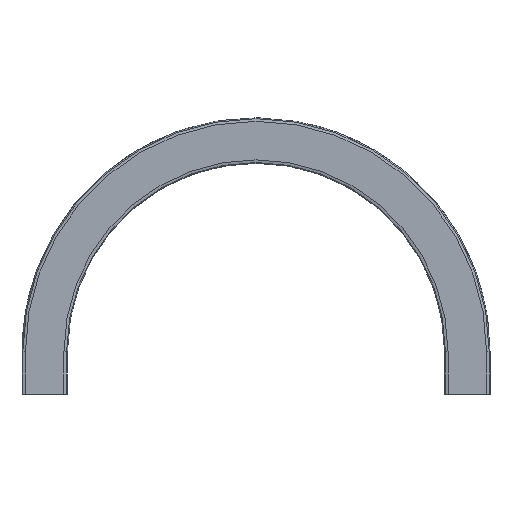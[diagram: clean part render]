
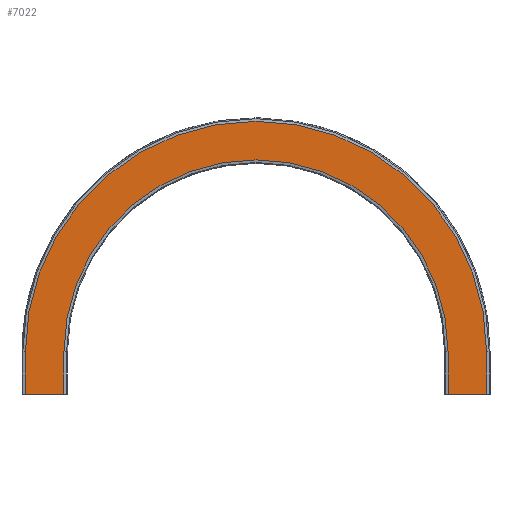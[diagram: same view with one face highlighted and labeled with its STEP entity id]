
A CAD part, front view. The second image highlights one B-rep face of the part: STEP entity #7022.
In plain terms, the highlighted planar face has unit normal (0, -1, 0).
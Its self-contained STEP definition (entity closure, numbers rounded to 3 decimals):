
#6653=CARTESIAN_POINT('',(36.5,-11.,0.0));
#6654=VERTEX_POINT('',#6653);
#6661=CARTESIAN_POINT('',(-36.5,-11.,0.0));
#6662=VERTEX_POINT('',#6661);
#6663=CARTESIAN_POINT('',(-36.5,-11.,0.0));
#6664=DIRECTION('',(1.0,0.0,0.0));
#6665=VECTOR('',#6664,73.);
#6666=LINE('',#6663,#6665);
#6667=EDGE_CURVE('',#6662,#6654,#6666,.T.);
#6733=CARTESIAN_POINT('',(-36.5,-11.,80.0));
#6734=VERTEX_POINT('',#6733);
#6748=CARTESIAN_POINT('',(-36.5,-11.,0.0));
#6749=DIRECTION('',(0.0,0.0,1.0));
#6750=VECTOR('',#6749,80.0);
#6751=LINE('',#6748,#6750);
#6752=EDGE_CURVE('',#6662,#6734,#6751,.T.);
#6762=CARTESIAN_POINT('',(36.5,-11.,80.0));
#6763=VERTEX_POINT('',#6762);
#6772=CARTESIAN_POINT('',(36.5,-11.,0.0));
#6773=DIRECTION('',(0.0,0.0,1.0));
#6774=VECTOR('',#6773,80.0);
#6775=LINE('',#6772,#6774);
#6776=EDGE_CURVE('',#6654,#6763,#6775,.T.);
#6849=CARTESIAN_POINT('',(-836.5,-11.,80.0));
#6850=VERTEX_POINT('',#6849);
#6859=CARTESIAN_POINT('',(-400.0,-11.,80.0));
#6860=DIRECTION('',(0.0,-1.0,0.0));
#6861=DIRECTION('',(1.0,0.0,0.0));
#6862=AXIS2_PLACEMENT_3D('',#6859,#6860,#6861);
#6863=CIRCLE('',#6862,436.5);
#6864=EDGE_CURVE('',#6763,#6850,#6863,.T.);
#6916=CARTESIAN_POINT('',(-763.5,-11.,80.0));
#6917=VERTEX_POINT('',#6916);
#6932=CARTESIAN_POINT('',(-400.0,-11.,80.0));
#6933=DIRECTION('',(0.0,-1.0,0.0));
#6934=DIRECTION('',(1.0,0.0,0.0));
#6935=AXIS2_PLACEMENT_3D('',#6932,#6933,#6934);
#6936=CIRCLE('',#6935,363.5);
#6937=EDGE_CURVE('',#6734,#6917,#6936,.T.);
#6976=CARTESIAN_POINT('',(-763.5,-11.,0.));
#6977=VERTEX_POINT('',#6976);
#6986=CARTESIAN_POINT('',(-763.5,-11.,80.0));
#6987=DIRECTION('',(0.0,0.0,-1.0));
#6988=VECTOR('',#6987,80.0);
#6989=LINE('',#6986,#6988);
#6990=EDGE_CURVE('',#6917,#6977,#6989,.T.);
#6995=CARTESIAN_POINT('',(-836.5,-11.,1416.637));
#6996=DIRECTION('',(0.0,-1.0,0.0));
#6997=DIRECTION('',(0.0,0.0,1.0));
#6998=AXIS2_PLACEMENT_3D('',#6995,#6996,#6997);
#6999=PLANE('',#6998);
#7000=CARTESIAN_POINT('',(-836.5,-11.,0.0));
#7001=VERTEX_POINT('',#7000);
#7002=CARTESIAN_POINT('',(-836.5,-11.,0.));
#7003=DIRECTION('',(1.0,0.0,0.0));
#7004=VECTOR('',#7003,73.);
#7005=LINE('',#7002,#7004);
#7006=EDGE_CURVE('',#7001,#6977,#7005,.T.);
#7007=ORIENTED_EDGE('',*,*,#7006,.T.);
#7008=ORIENTED_EDGE('',*,*,#6990,.F.);
#7009=ORIENTED_EDGE('',*,*,#6937,.F.);
#7010=ORIENTED_EDGE('',*,*,#6752,.F.);
#7011=ORIENTED_EDGE('',*,*,#6667,.T.);
#7012=ORIENTED_EDGE('',*,*,#6776,.T.);
#7013=ORIENTED_EDGE('',*,*,#6864,.T.);
#7014=CARTESIAN_POINT('',(-836.5,-11.,80.0));
#7015=DIRECTION('',(0.0,0.0,-1.0));
#7016=VECTOR('',#7015,80.0);
#7017=LINE('',#7014,#7016);
#7018=EDGE_CURVE('',#6850,#7001,#7017,.T.);
#7019=ORIENTED_EDGE('',*,*,#7018,.T.);
#7020=EDGE_LOOP('',(#7007,#7008,#7009,#7010,#7011,#7012,#7013,#7019));
#7021=FACE_OUTER_BOUND('',#7020,.T.);
#7022=ADVANCED_FACE('',(#7021),#6999,.T.);
